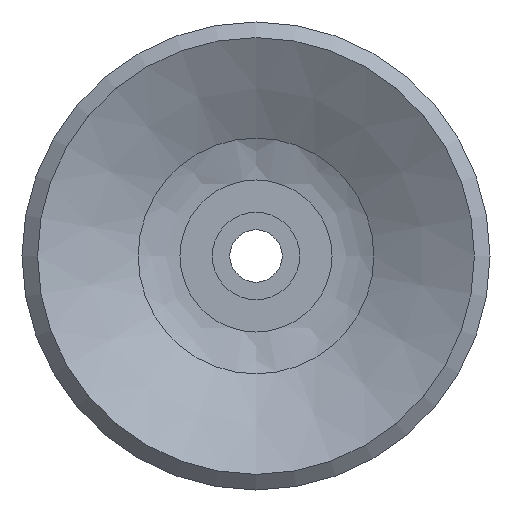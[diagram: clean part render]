
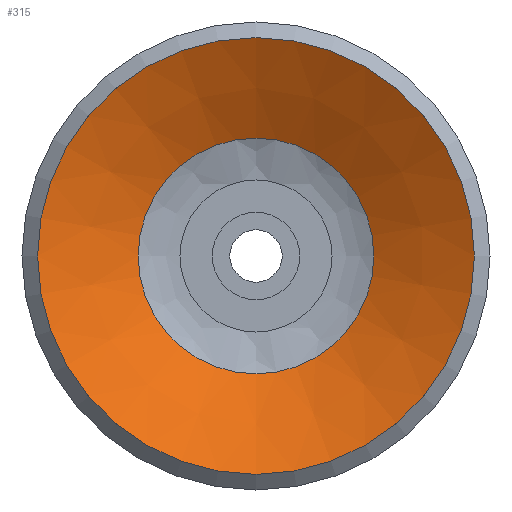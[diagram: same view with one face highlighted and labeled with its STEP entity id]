
A CAD part, front view. The second image highlights one B-rep face of the part: STEP entity #315.
In plain terms, the highlighted conical face has half-angle 61.39 degrees and reference radius 2.25 mm.
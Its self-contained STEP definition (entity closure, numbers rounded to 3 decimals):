
#315=ADVANCED_FACE('',(#452,#453),#454,.F.);
#452=FACE_BOUND('',#606,.T.);
#453=FACE_OUTER_BOUND('',#607,.T.);
#454=CONICAL_SURFACE('',#608,2.25,1.071);
#606=EDGE_LOOP('',(#931));
#607=EDGE_LOOP('',(#932));
#608=AXIS2_PLACEMENT_3D('',#933,#934,#935);
#931=ORIENTED_EDGE('',*,*,#1040,.T.);
#932=ORIENTED_EDGE('',*,*,#1041,.T.);
#933=CARTESIAN_POINT('',(0.0,1.5,0.0));
#934=DIRECTION('',(-0.0,-1.0,0.));
#935=DIRECTION('',(0.0,0.,-1.0));
#1040=EDGE_CURVE('',#1167,#1167,#1168,.T.);
#1041=EDGE_CURVE('',#1169,#1169,#1170,.T.);
#1167=VERTEX_POINT('',#1335);
#1168=CIRCLE('',#1336,2.698);
#1169=VERTEX_POINT('',#1337);
#1170=CIRCLE('',#1338,5.);
#1335=CARTESIAN_POINT('',(0.0,1.256,-2.698));
#1336=AXIS2_PLACEMENT_3D('',#1486,#1487,#1488);
#1337=CARTESIAN_POINT('',(0.0,0.,-5.));
#1338=AXIS2_PLACEMENT_3D('',#1489,#1490,#1491);
#1486=CARTESIAN_POINT('',(0.0,1.256,0.0));
#1487=DIRECTION('',(0.0,1.0,0.));
#1488=DIRECTION('',(0.0,0.,-1.0));
#1489=CARTESIAN_POINT('',(0.0,0.0,0.0));
#1490=DIRECTION('',(0.0,-1.0,0.));
#1491=DIRECTION('',(0.0,0.,-1.0));
